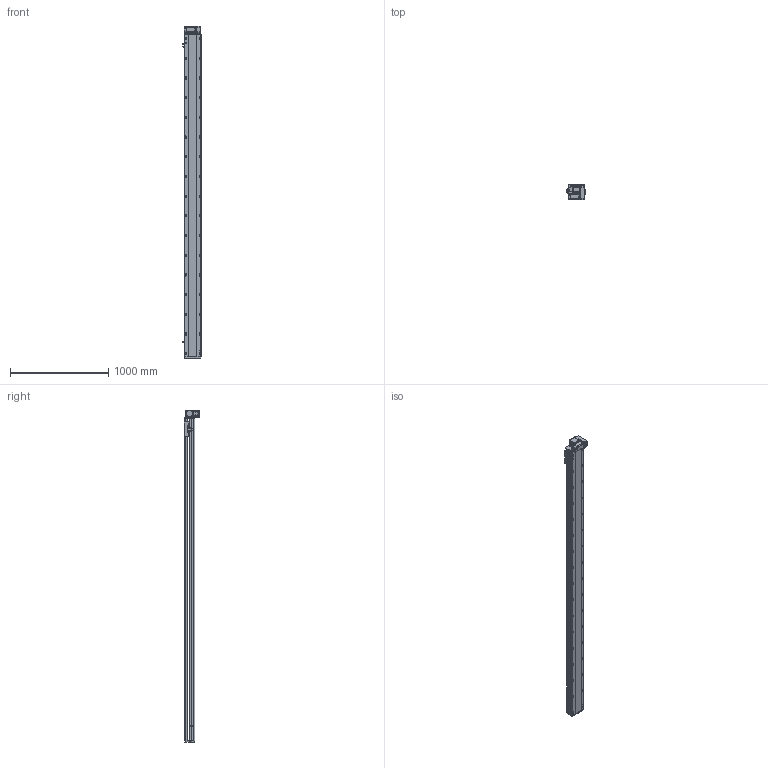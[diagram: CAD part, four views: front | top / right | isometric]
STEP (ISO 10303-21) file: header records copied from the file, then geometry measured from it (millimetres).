
FILE_DESCRIPTION (( 'STEP AP214' ), '1' );
FILE_NAME ('RTB17S-XX-3000-RM-M40-C4.STEP', '2025-12-11T08:35:23', ( '' ), ( '' ), 'SwSTEP 2.0', 'SolidWorks 2018', '' );
FILE_SCHEMA (( 'AUTOMOTIVE_DESIGN' ));
Length unit declared in the file: millimetre
Products named in the file (14): RTB17-R-011菁釱^RTB17S-XX-XX-RM-M40-C4; RTB17S-L-007奻裔^RTB17S-XX-XX-RM-M40-C4; RTB17S-XX-3000-RM-M40-C4; RTB14-L-018P^RTB17S-RM-々湍釱蚾饜-400W_RTB17S-XX-XX-RM-M40-C4; RTB14-L-017P^RTB17S-RM-々湍釱蚾饜-400W_RTB17S-XX-XX-RM-M40-C4; OMRON EE-SX672 传感器^RTB17S-XX-XX-RM-M40-C4; RTB17S-L-004佪裝蹟譫蟀諉釱^RTB17S-XX-XX-RM-M40-C4; RTB14-L-005P--轴承塑胶压盖^RTB17S-RM-皮带座装配-400W_RTB17S-XX-XX-RM-M40-C4; RTB17S-L-014-T20--々湍釱^RTB17S-RM-々湍釱蚾饜-400W_RTB17S-XX-XX-RM-M40-C4; 400W侜督萇儂^RTB17S-XX-XX-RM-M40-C4; RTB17S-RM-々湍釱蚾饜-400W^RTB17S-XX-XX-RM-M40-C4; RTH13-BL-012覜茼え俋离^RTB17S-XX-XX-RM-M40-C4; RTB14-L-008-M20--萇儂啣^RTB17S-RM-々湍釱蚾饜-400W_RTB17S-XX-XX-RM-M40-C4; RTB17S-L-001耜醱啣^RTB17S-XX-XX-RM-M40-C4
Assembly tree (16 placements, depth 3):
  RTB17S-XX-3000-RM-M40-C4
    RTB17-R-011菁釱^RTB17S-XX-XX-RM-M40-C4
    RTB17S-L-007奻裔^RTB17S-XX-XX-RM-M40-C4
    OMRON EE-SX672 传感器^RTB17S-XX-XX-RM-M40-C4  x3
    RTB17S-L-001耜醱啣^RTB17S-XX-XX-RM-M40-C4
    400W侜督萇儂^RTB17S-XX-XX-RM-M40-C4
    RTB17S-L-004佪裝蹟譫蟀諉釱^RTB17S-XX-XX-RM-M40-C4
    RTH13-BL-012覜茼え俋离^RTB17S-XX-XX-RM-M40-C4
    RTB17S-RM-々湍釱蚾饜-400W^RTB17S-XX-XX-RM-M40-C4
      RTB17S-L-014-T20--々湍釱^RTB17S-RM-々湍釱蚾饜-400W_RTB17S-XX-XX-RM-M40-C4
      RTB14-L-005P--轴承塑胶压盖^RTB17S-RM-皮带座装配-400W_RTB17S-XX-XX-RM-M40-C4
      RTB14-L-008-M20--萇儂啣^RTB17S-RM-々湍釱蚾饜-400W_RTB17S-XX-XX-RM-M40-C4
      RTB14-L-017P^RTB17S-RM-々湍釱蚾饜-400W_RTB17S-XX-XX-RM-M40-C4  x2
      RTB14-L-018P^RTB17S-RM-々湍釱蚾饜-400W_RTB17S-XX-XX-RM-M40-C4
Bounding box: 183.5 x 156.5 x 3372.5 mm (x, y, z)
Volume: 28686796 mm3; surface area: 3275748.3 mm2
Topology: 15 solids, 15 shells, 2365 faces, 6627 edges, 4329 vertices
Faces by surface type: plane 1088, cylinder 829, bspline 301, cone 139, torus 8
Entity records: 70313 total; most frequent: CARTESIAN_POINT 20032, ORIENTED_EDGE 10098, DIRECTION 9296, EDGE_CURVE 5049, VERTEX_POINT 3317, AXIS2_PLACEMENT_3D 3247, LINE 2802, VECTOR 2802
